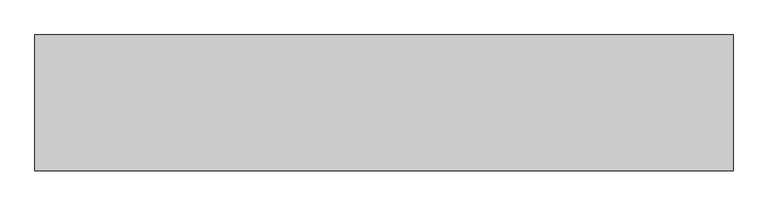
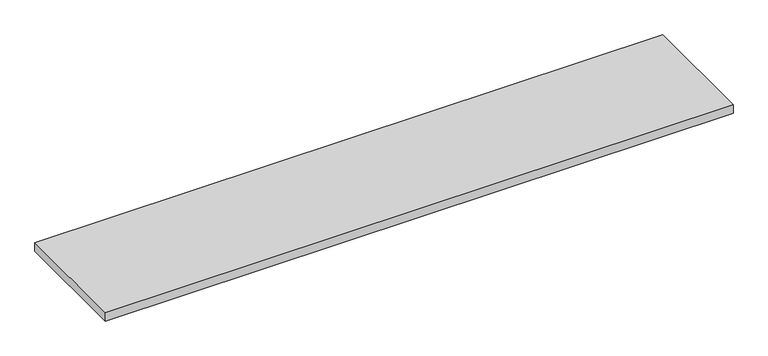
"""IFC4 building model written with IfcOpenShell, lengths in millimetres: furniture geometry."""

from ifc_helpers import new_model, si_unit, frame, origin, place, context, project, spatial, polyline, outline, extrude, source, transform, mapped, element, save


def furniture_89f3b497(model_context):
    return source(origin(), model_context, "Body", "SweptSolid", [
        extrude(outline(polyline([(914.4, -355.6), (-914.4, -355.6), (-914.4, 0.0), (914.4, 0.0), (914.4, -355.6)])), frame((0.0, 0.0, 1009.65), z_axis=(0.0, 0.0, 1.0), x_axis=(1.0, 0.0, 0.0)), (0.0, 0.0, 1.0), 25.4),
    ])


if __name__ == "__main__":
    model = new_model("IFC4")
    model_context = context("Model", 3, world=origin())
    ifc_project = project(units=[si_unit("LENGTHUNIT", "METRE", prefix="MILLI")], contexts=[model_context])
    site = spatial("IfcSite", under=ifc_project)
    building = spatial("IfcBuilding", under=site)
    placement = place(None, origin())
    furniture_shape = furniture_89f3b497(model_context)
    element("IfcFurniture", 1, ObjectType="HermanMiller_ActionOffice_A2830_Sq-EdgeTransactionSurfaceRectangularEnd : 14\"D x 72\"W", at=placement, inside=building, context=model_context, shape_type="MappedRepresentation", body=[
        mapped(furniture_shape, transform((0.0, 0.0, 0.0), x_axis=(1.0, 0.0, 0.0), y_axis=(0.0, 1.0, 0.0), z_axis=(0.0, 0.0, 1.0))),
    ])
    save(model, "model.ifc")
